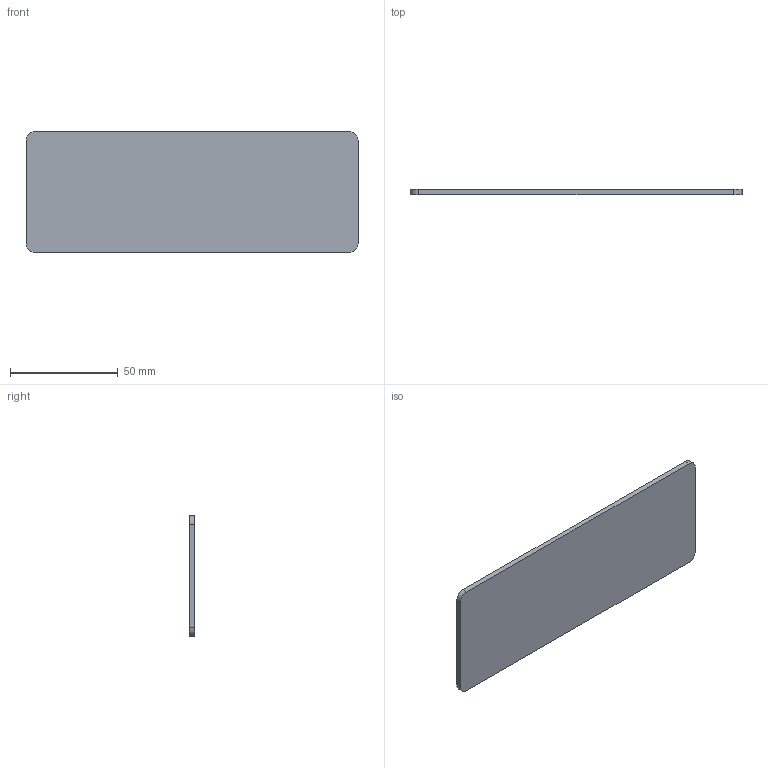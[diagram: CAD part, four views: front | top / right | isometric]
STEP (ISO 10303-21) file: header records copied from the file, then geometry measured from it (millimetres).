
FILE_DESCRIPTION(('Open CASCADE Model'),'2;1');
FILE_NAME('Open CASCADE Shape Model','2026-10-17T16:45:03',('Author'),( 'Open CASCADE'),'Open CASCADE STEP processor 8.0','build123d', 'Unknown');
FILE_SCHEMA(('AUTOMOTIVE_DESIGN { 1 0 10303 214 1 1 1 1 }'));
Length unit declared in the file: millimetre
Products named in the file (2): =>[0:1:1:2]; COMPOUND
Assembly tree (1 placements, depth 2):
  =>[0:1:1:2]
    COMPOUND
Bounding box: 154 x 2.5 x 56 mm (x, y, z)
Volume: 21525.7 mm3; surface area: 18253.4 mm2
Topology: 1 solids, 1 shells, 10 faces, 24 edges, 16 vertices
Faces by surface type: plane 6, cylinder 4
Entity records: 648 total; most frequent: CARTESIAN_POINT 124, DIRECTION 100, LINE 56, VECTOR 56, ORIENTED_EDGE 48, PCURVE 48, DEFINITIONAL_REPRESENTATION 48, EDGE_CURVE 24
